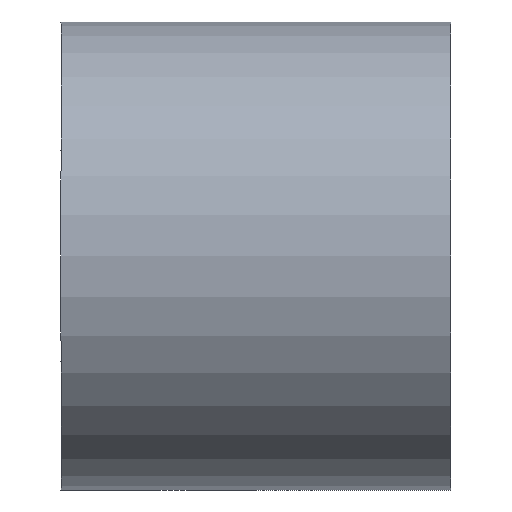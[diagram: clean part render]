
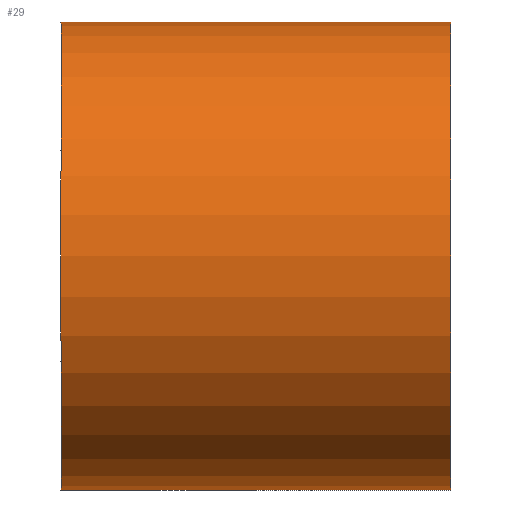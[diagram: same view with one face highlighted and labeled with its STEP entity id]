
A CAD part, left-side view. The second image highlights one B-rep face of the part: STEP entity #29.
In plain terms, the highlighted cylindrical face has radius 3 mm (diameter 6 mm), a partial arc.
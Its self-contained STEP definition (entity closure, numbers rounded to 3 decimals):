
#5 = AXIS2_PLACEMENT_3D ( 'NONE', #138, #183, #191 ) ;
#12 = AXIS2_PLACEMENT_3D ( 'NONE', #151, #150, #148 ) ;
#14 = AXIS2_PLACEMENT_3D ( 'NONE', #163, #162, #161 ) ;
#29 = ADVANCED_FACE ( 'NONE', ( #92 ), #88, .T. ) ;
#37 = ORIENTED_EDGE ( 'NONE', *, *, #210, .T. ) ;
#54 = CIRCLE ( 'NONE', #12, 3. ) ;
#56 = CIRCLE ( 'NONE', #14, 3. ) ;
#57 = VECTOR ( 'NONE', #167, 1000. ) ;
#58 = VERTEX_POINT ( 'NONE', #139 ) ;
#59 = VECTOR ( 'NONE', #171, 1000. ) ;
#60 = LINE ( 'NONE', #168, #57 ) ;
#63 = LINE ( 'NONE', #178, #59 ) ;
#68 = ORIENTED_EDGE ( 'NONE', *, *, #209, .F. ) ;
#77 = ORIENTED_EDGE ( 'NONE', *, *, #212, .F. ) ;
#80 = ORIENTED_EDGE ( 'NONE', *, *, #214, .T. ) ;
#88 = CYLINDRICAL_SURFACE ( 'NONE', #5, 3. ) ;
#92 = FACE_OUTER_BOUND ( 'NONE', #96, .T. ) ;
#96 = EDGE_LOOP ( 'NONE', ( #68, #77, #37, #80 ) ) ;
#101 = VERTEX_POINT ( 'NONE', #140 ) ;
#102 = VERTEX_POINT ( 'NONE', #136 ) ;
#103 = VERTEX_POINT ( 'NONE', #133 ) ;
#133 = CARTESIAN_POINT ( 'NONE',  ( 0., 5., -3. ) ) ;
#136 = CARTESIAN_POINT ( 'NONE',  ( 0., 5., 3. ) ) ;
#138 = CARTESIAN_POINT ( 'NONE',  ( 0., 5., 0. ) ) ;
#139 = CARTESIAN_POINT ( 'NONE',  ( 0., 0., 3. ) ) ;
#140 = CARTESIAN_POINT ( 'NONE',  ( 0., 0., -3. ) ) ;
#148 = DIRECTION ( 'NONE',  ( 0., 0., 1. ) ) ;
#150 = DIRECTION ( 'NONE',  ( 0., 1., 0. ) ) ;
#151 = CARTESIAN_POINT ( 'NONE',  ( 0., 0., 0. ) ) ;
#161 = DIRECTION ( 'NONE',  ( 0., 0., 1. ) ) ;
#162 = DIRECTION ( 'NONE',  ( 0., 1., 0. ) ) ;
#163 = CARTESIAN_POINT ( 'NONE',  ( 0., 5., 0. ) ) ;
#167 = DIRECTION ( 'NONE',  ( 0., -1., 0. ) ) ;
#168 = CARTESIAN_POINT ( 'NONE',  ( 0., 5., -3. ) ) ;
#171 = DIRECTION ( 'NONE',  ( 0., -1., 0. ) ) ;
#178 = CARTESIAN_POINT ( 'NONE',  ( 0., 5., 3. ) ) ;
#183 = DIRECTION ( 'NONE',  ( 0., -1., 0. ) ) ;
#191 = DIRECTION ( 'NONE',  ( 0., 0., -1. ) ) ;
#209 = EDGE_CURVE ( 'NONE', #102, #58, #63, .T. ) ;
#210 = EDGE_CURVE ( 'NONE', #103, #101, #60, .T. ) ;
#212 = EDGE_CURVE ( 'NONE', #103, #102, #56, .T. ) ;
#214 = EDGE_CURVE ( 'NONE', #101, #58, #54, .T. ) ;
